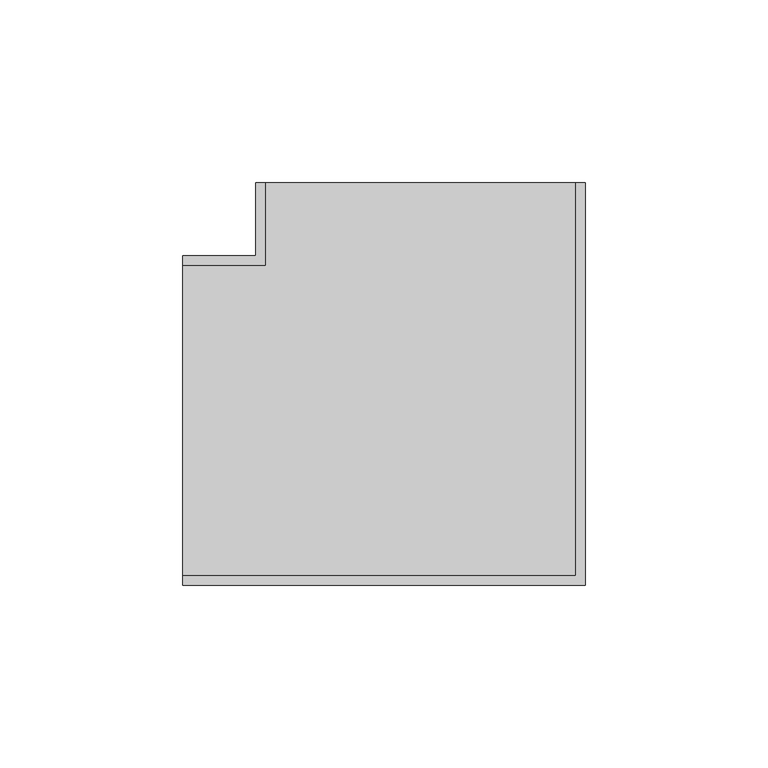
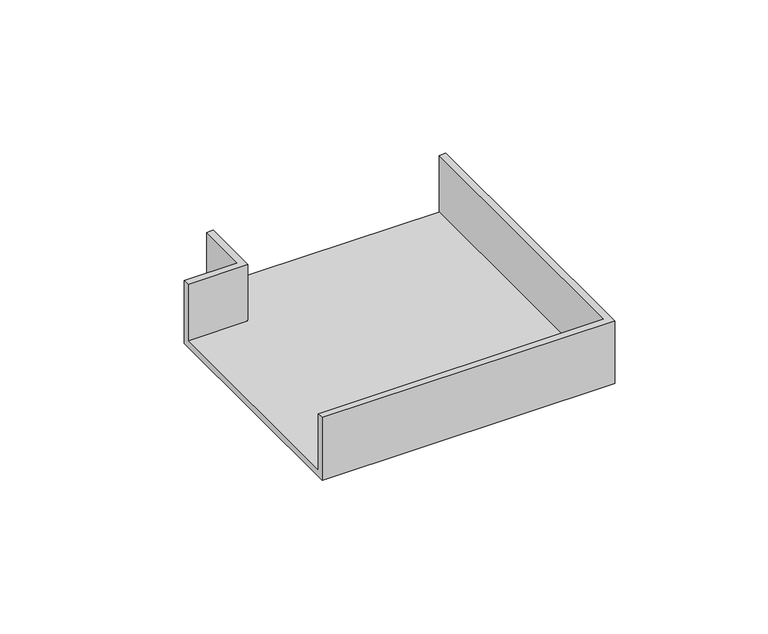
"""IFC4 building model written with IfcOpenShell, lengths in millimetres: cable carrier fitting geometry, КНС_УголПлоский_ILF_DKC : Угол плоский белый."""

from ifc_helpers import new_model, si_unit, origin, place, context, project, spatial, faceted_brep, source, transform, mapped, element, save


def cable_carrier_fitting_1869ba21(model_context):
    return source(origin(), model_context, "Body", "Brep", [
        faceted_brep([(-65.0, 45.0, -12.5), (-65.0, -45.0, -12.5), (-65.0, -45.0, 12.5), (-65.0, -42.46, 12.5), (-65.0, -42.46, -9.96), (-65.0, 42.46, -9.96), (-65.0, 42.46, 12.5), (-65.0, 45.0, 12.5), (-45.0, 45.0, -12.5), (-45.0, 65.0, -12.5), (45.0, 65.0, -12.5), (45.0, -45.0, -12.5), (45.0, -45.0, 12.5), (45.0, 65.0, 12.5), (42.46, 65.0, 12.5), (42.46, -42.46, 12.5), (42.46, -42.46, -9.96), (42.46, 65.0, -9.96), (-42.46, 65.0, -9.96), (-42.46, 42.46, -9.96), (-42.46, 42.46, 12.5), (-42.46, 65.0, 12.5), (-45.0, 65.0, 12.5), (-45.0, 45.0, 12.5)], [[[0, 1, 2, 3, 4, 5, 6, 7]], [[1, 0, 8, 9, 10, 11]], [[2, 1, 11, 12]], [[3, 2, 12, 13, 14, 15]], [[4, 3, 15, 16]], [[5, 4, 16, 17, 18, 19]], [[6, 5, 19, 20]], [[7, 6, 20, 21, 22, 23]], [[0, 7, 23, 8]], [[9, 22, 21, 18, 17, 14, 13, 10]], [[12, 11, 10, 13]], [[16, 15, 14, 17]], [[20, 19, 18, 21]], [[8, 23, 22, 9]]]),
    ])


if __name__ == "__main__":
    model = new_model("IFC4")
    model_context = context("Model", 3, world=origin())
    ifc_project = project(units=[si_unit("LENGTHUNIT", "METRE", prefix="MILLI")], contexts=[model_context])
    site = spatial("IfcSite", under=ifc_project)
    building = spatial("IfcBuilding", under=site)
    placement = place(None, origin())
    cable_carrier_fitting_shape = cable_carrier_fitting_1869ba21(model_context)
    element("IfcCableCarrierFitting", 1, ObjectType="КНС_УголПлоский_ILF_DKC : Угол плоский белый", at=placement, inside=building, context=model_context, shape_type="MappedRepresentation", body=[
        mapped(cable_carrier_fitting_shape, transform((0.0, 0.0, 0.0), x_axis=(1.0, 0.0, 0.0), y_axis=(0.0, 1.0, 0.0), z_axis=(0.0, 0.0, 1.0))),
    ])
    save(model, "model.ifc")
